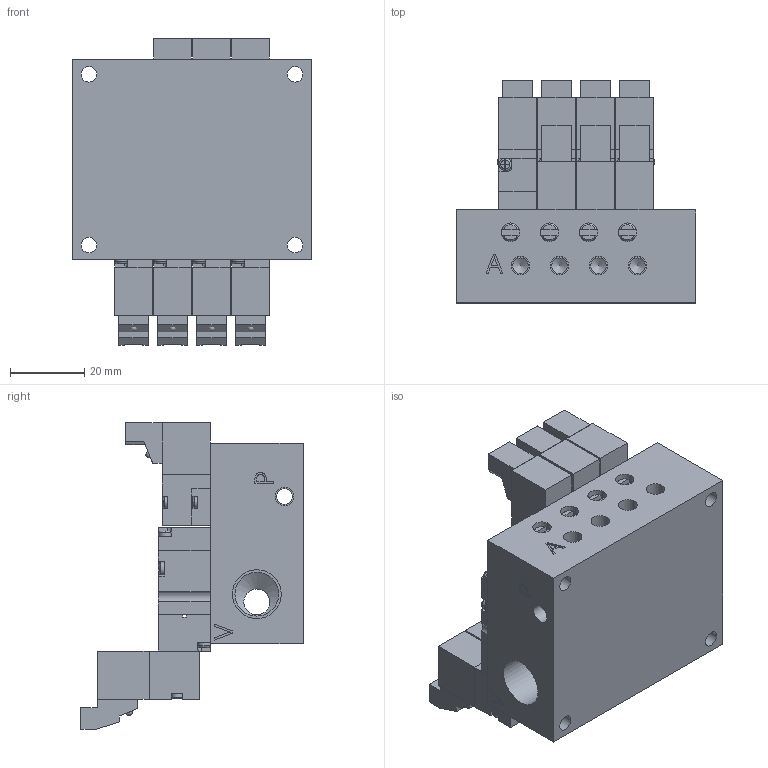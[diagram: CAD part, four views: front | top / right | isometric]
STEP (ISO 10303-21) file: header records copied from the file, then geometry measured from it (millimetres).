
FILE_DESCRIPTION (( 'STEP AP214' ), '1' );
FILE_NAME ('~NVPN-10V-4M(X3).STEP', '2018-04-10T05:32:29', ( 'Casper' ), ( '' ), 'SwSTEP 2.0', 'SolidWorks 2015', '' );
FILE_SCHEMA (( 'AUTOMOTIVE_DESIGN' ));
Length unit declared in the file: millimetre
Products named in the file (16): 10mm引導閥模組_去鋼珠; M2x10螺絲; NVS-3500-J01_NVS3500引導閥(01)_去鋼珠; NVP-3300M-C01_NVP-3300M底座式本體(X0)_去鋼珠; BM-3300MN-Y01_NVPN-10V底座(X3)_去鋼珠; ~NVPN-10V-4M(X3); M1.6x5螺絲; PV10-G01_PV10-B蓋板; NVP-10V-Q01_NVP-10V調整螺絲(00); M2x15螺絲; 10mm線圈FIM P371-1 24VDC; NVP-3321M-D2-1L_去鋼珠; NV-20VB端蓋組_去鋼珠; M2x6螺絲; NV-20VB-K01_NV-20VB端蓋(00)_去鋼珠; 10mm線圈(L)
Assembly tree (33 placements, depth 4):
  ~NVPN-10V-4M(X3)
    BM-3300MN-Y01_NVPN-10V底座(X3)_去鋼珠
    NVP-3321M-D2-1L_去鋼珠  x4
      NVP-3300M-C01_NVP-3300M底座式本體(X0)_去鋼珠
      10mm引導閥模組_去鋼珠
        NVS-3500-J01_NVS3500引導閥(01)_去鋼珠
        M2x10螺絲  x2
      10mm線圈(L)
      NV-20VB端蓋組_去鋼珠
        NV-20VB-K01_NV-20VB端蓋(00)_去鋼珠
        M2x6螺絲  x2
    10mm線圈FIM P371-1 24VDC  x3
    M2x15螺絲  x8
    NVP-10V-Q01_NVP-10V調整螺絲(00)  x4
    PV10-G01_PV10-B蓋板
    M1.6x5螺絲  x2
Bounding box: 64.5 x 59.9 x 82.6 mm (x, y, z)
Volume: 123828.9 mm3; surface area: 54218.9 mm2
Topology: 97 solids, 97 shells, 2114 faces, 5225 edges, 3449 vertices
Faces by surface type: plane 1611, cylinder 328, cone 114, torus 40, bspline 14, sphere 7
Full cylindrical faces by diameter (mm): 1 x7, 1.25 x16, 1.6 x48, 1.7 x14, 1.8 x2, 2 x48, 2.1 x16, 2.2 x8, 2.3 x8, 2.5 x8, 3 x16, 3.4 x31, 3.8 x12, 4.2 x13, 4.5 x4, 5 x14, 7 x1, 7.2 x4, 8.4 x4, 11.8 x2, 13.157 x2
Entity records: 20519 total; most frequent: CARTESIAN_POINT 4134, DIRECTION 2962, ORIENTED_EDGE 2746, EDGE_CURVE 1373, VERTEX_POINT 996, AXIS2_PLACEMENT_3D 990, VECTOR 982, LINE 982
